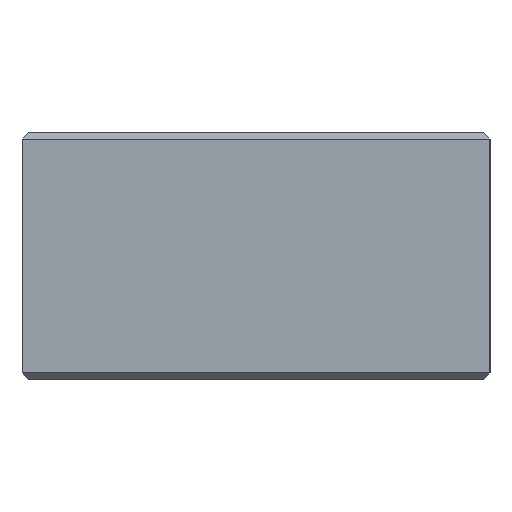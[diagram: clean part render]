
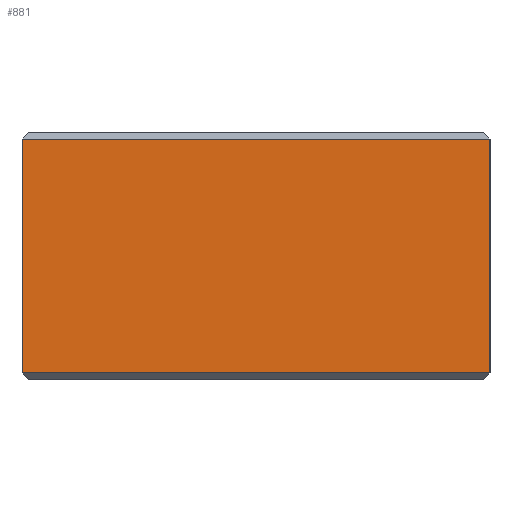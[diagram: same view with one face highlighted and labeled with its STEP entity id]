
A CAD part, left-side view. The second image highlights one B-rep face of the part: STEP entity #881.
In plain terms, the highlighted planar face has unit normal (-1, 0, 0).
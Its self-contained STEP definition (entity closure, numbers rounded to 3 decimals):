
#9 = CARTESIAN_POINT ( 'NONE',  ( -35., -20., 10. ) ) ;
#12 = PLANE ( 'NONE',  #466 ) ;
#13 = DIRECTION ( 'NONE',  ( 1., 0., 0. ) ) ;
#14 = DIRECTION ( 'NONE',  ( 0., 0., -1. ) ) ;
#89 = VERTEX_POINT ( 'NONE', #1033 ) ;
#92 = VERTEX_POINT ( 'NONE', #1031 ) ;
#94 = VERTEX_POINT ( 'NONE', #1029 ) ;
#96 = VERTEX_POINT ( 'NONE', #1028 ) ;
#150 = EDGE_CURVE ( 'NONE', #89, #96, #750, .T. ) ;
#152 = EDGE_CURVE ( 'NONE', #96, #94, #754, .T. ) ;
#177 = EDGE_CURVE ( 'NONE', #92, #94, #752, .T. ) ;
#178 = EDGE_CURVE ( 'NONE', #92, #89, #756, .T. ) ;
#355 = EDGE_LOOP ( 'NONE', ( #642, #643, #644, #645 ) ) ;
#466 = AXIS2_PLACEMENT_3D ( 'NONE', #9, #13, #14 ) ;
#642 = ORIENTED_EDGE ( 'NONE', *, *, #150, .T. ) ;
#643 = ORIENTED_EDGE ( 'NONE', *, *, #152, .T. ) ;
#644 = ORIENTED_EDGE ( 'NONE', *, *, #177, .F. ) ;
#645 = ORIENTED_EDGE ( 'NONE', *, *, #178, .T. ) ;
#750 = LINE ( 'NONE', #902, #753 ) ;
#752 = LINE ( 'NONE', #914, #759 ) ;
#753 = VECTOR ( 'NONE', #900, 1000. ) ;
#754 = LINE ( 'NONE', #898, #757 ) ;
#756 = LINE ( 'NONE', #901, #761 ) ;
#757 = VECTOR ( 'NONE', #897, 1000. ) ;
#759 = VECTOR ( 'NONE', #896, 1000. ) ;
#761 = VECTOR ( 'NONE', #895, 1000. ) ;
#881 = ADVANCED_FACE ( 'NONE', ( #1163 ), #12, .F. ) ;
#895 = DIRECTION ( 'NONE',  ( 0., 1., 0. ) ) ;
#896 = DIRECTION ( 'NONE',  ( 0., 0., -1. ) ) ;
#897 = DIRECTION ( 'NONE',  ( 0., -1., 0. ) ) ;
#898 = CARTESIAN_POINT ( 'NONE',  ( -35., -20., -9.5 ) ) ;
#900 = DIRECTION ( 'NONE',  ( 0., 0., -1. ) ) ;
#901 = CARTESIAN_POINT ( 'NONE',  ( -35., -20., 9.5 ) ) ;
#902 = CARTESIAN_POINT ( 'NONE',  ( -35., 18., 10. ) ) ;
#914 = CARTESIAN_POINT ( 'NONE',  ( -35., -20., 10. ) ) ;
#1028 = CARTESIAN_POINT ( 'NONE',  ( -35., 18., -9.5 ) ) ;
#1029 = CARTESIAN_POINT ( 'NONE',  ( -35., -20., -9.5 ) ) ;
#1031 = CARTESIAN_POINT ( 'NONE',  ( -35., -20., 9.5 ) ) ;
#1033 = CARTESIAN_POINT ( 'NONE',  ( -35., 18., 9.5 ) ) ;
#1163 = FACE_OUTER_BOUND ( 'NONE', #355, .T. ) ;
